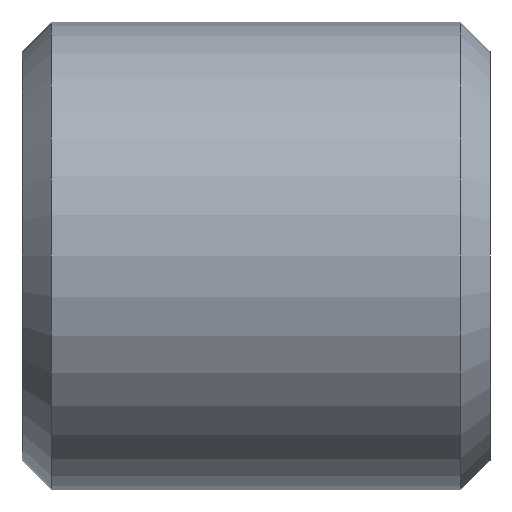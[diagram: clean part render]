
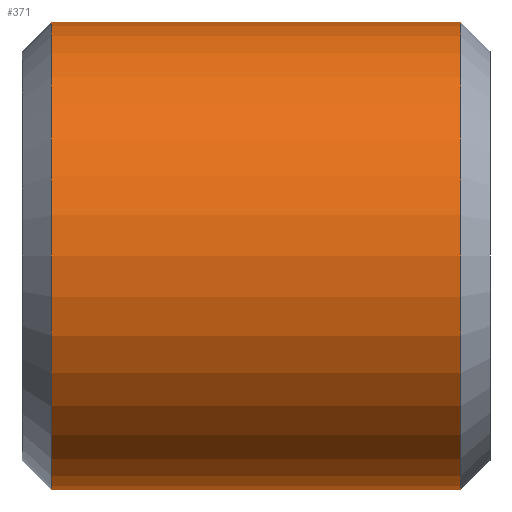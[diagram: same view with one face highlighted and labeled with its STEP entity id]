
A CAD part, front view. The second image highlights one B-rep face of the part: STEP entity #371.
In plain terms, the highlighted cylindrical face has radius 8 mm (diameter 16 mm), a partial arc.
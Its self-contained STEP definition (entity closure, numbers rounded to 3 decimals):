
#9 = CYLINDRICAL_SURFACE ( 'NONE', #167, 8. ) ;
#50 = CARTESIAN_POINT ( 'NONE',  ( -15.811, 0., 8. ) ) ;
#73 = CIRCLE ( 'NONE', #830, 8. ) ;
#99 = DIRECTION ( 'NONE',  ( -1., 0., 0. ) ) ;
#104 = VERTEX_POINT ( 'NONE', #715 ) ;
#107 = DIRECTION ( 'NONE',  ( -1., 0., 0. ) ) ;
#145 = VERTEX_POINT ( 'NONE', #814 ) ;
#159 = VERTEX_POINT ( 'NONE', #769 ) ;
#161 = ORIENTED_EDGE ( 'NONE', *, *, #727, .T. ) ;
#167 = AXIS2_PLACEMENT_3D ( 'NONE', #234, #99, #695 ) ;
#172 = DIRECTION ( 'NONE',  ( -1., 0., 0. ) ) ;
#193 = EDGE_CURVE ( 'NONE', #159, #819, #73, .T. ) ;
#203 = CARTESIAN_POINT ( 'NONE',  ( 7., 0., 0. ) ) ;
#234 = CARTESIAN_POINT ( 'NONE',  ( -15.811, 0., 0. ) ) ;
#250 = VECTOR ( 'NONE', #107, 1000. ) ;
#272 = ORIENTED_EDGE ( 'NONE', *, *, #675, .F. ) ;
#277 = DIRECTION ( 'NONE',  ( 0., 0., 1. ) ) ;
#371 = ADVANCED_FACE ( 'NONE', ( #436 ), #9, .T. ) ;
#436 = FACE_OUTER_BOUND ( 'NONE', #737, .T. ) ;
#443 = DIRECTION ( 'NONE',  ( -1., 0., 0. ) ) ;
#563 = CARTESIAN_POINT ( 'NONE',  ( -15.811, 0., -8. ) ) ;
#570 = CARTESIAN_POINT ( 'NONE',  ( -7., 0., 0. ) ) ;
#575 = CIRCLE ( 'NONE', #655, 8. ) ;
#609 = VECTOR ( 'NONE', #443, 1000. ) ;
#627 = DIRECTION ( 'NONE',  ( 0., 0., 1. ) ) ;
#653 = ORIENTED_EDGE ( 'NONE', *, *, #744, .F. ) ;
#655 = AXIS2_PLACEMENT_3D ( 'NONE', #570, #172, #627 ) ;
#658 = DIRECTION ( 'NONE',  ( -1., 0., 0. ) ) ;
#659 = CARTESIAN_POINT ( 'NONE',  ( 7., 0., 8. ) ) ;
#675 = EDGE_CURVE ( 'NONE', #159, #145, #711, .T. ) ;
#695 = DIRECTION ( 'NONE',  ( 0., 0., 1. ) ) ;
#711 = LINE ( 'NONE', #563, #609 ) ;
#715 = CARTESIAN_POINT ( 'NONE',  ( -7., 0., 8. ) ) ;
#727 = EDGE_CURVE ( 'NONE', #819, #104, #728, .T. ) ;
#728 = LINE ( 'NONE', #50, #250 ) ;
#737 = EDGE_LOOP ( 'NONE', ( #272, #768, #161, #653 ) ) ;
#744 = EDGE_CURVE ( 'NONE', #145, #104, #575, .T. ) ;
#768 = ORIENTED_EDGE ( 'NONE', *, *, #193, .T. ) ;
#769 = CARTESIAN_POINT ( 'NONE',  ( 7., 0., -8. ) ) ;
#814 = CARTESIAN_POINT ( 'NONE',  ( -7., 0., -8. ) ) ;
#819 = VERTEX_POINT ( 'NONE', #659 ) ;
#830 = AXIS2_PLACEMENT_3D ( 'NONE', #203, #658, #277 ) ;
